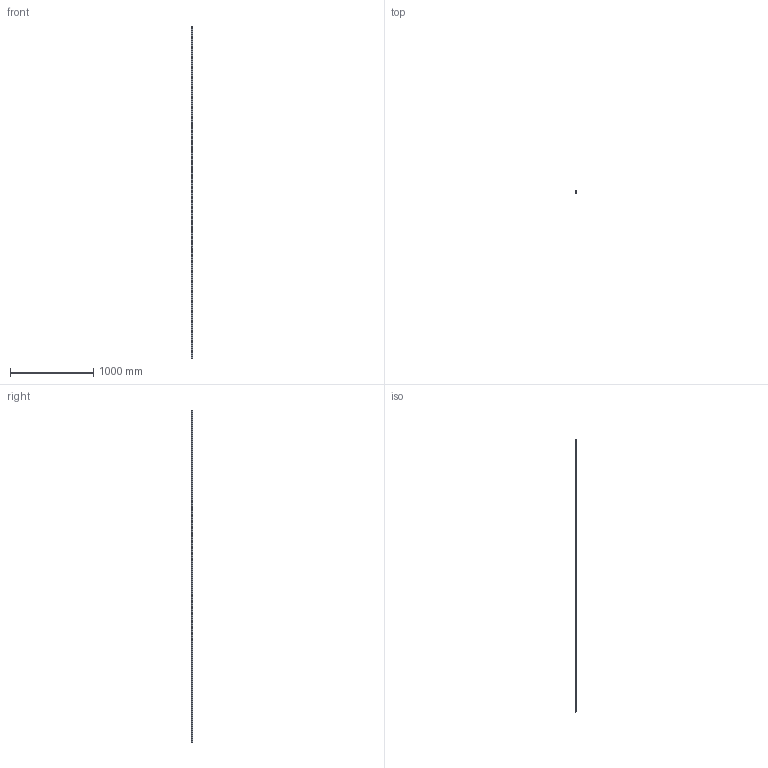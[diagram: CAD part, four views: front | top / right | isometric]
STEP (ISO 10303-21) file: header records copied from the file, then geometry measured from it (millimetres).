
FILE_DESCRIPTION (( 'STEP AP203' ), '1' );
FILE_NAME ('SGR20R4000L.STEP', '2025-06-26T08:59:25', ( 'Owner' ), ( 'Organization' ), 'SwSTEP 2.0', 'SolidWorks 2020', '' );
FILE_SCHEMA (( 'CONFIG_CONTROL_DESIGN' ));
Length unit declared in the file: millimetre
Products named in the file (1): SGR20R4000L
Bounding box: 20 x 17.5 x 4000 mm (x, y, z)
Volume: 1142640.4 mm3; surface area: 330719.3 mm2
Topology: 1 solids, 1 shells, 380 faces, 933 edges, 622 vertices
Faces by surface type: cylinder 291, plane 89
Entity records: 11884 total; most frequent: DIRECTION 2277, CARTESIAN_POINT 1936, ORIENTED_EDGE 1866, AXIS2_PLACEMENT_3D 963, EDGE_CURVE 933, VERTEX_POINT 622, CIRCLE 582, EDGE_LOOP 581
